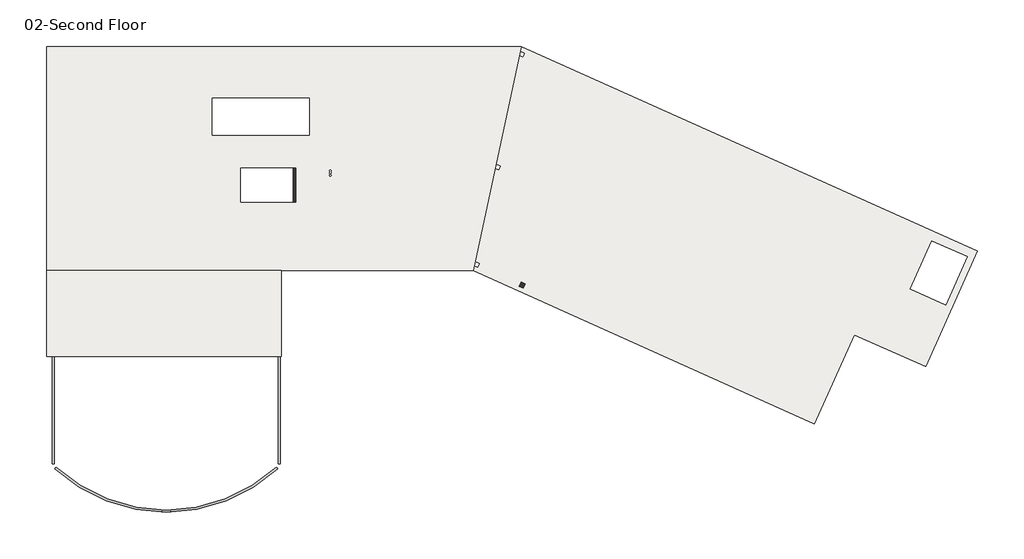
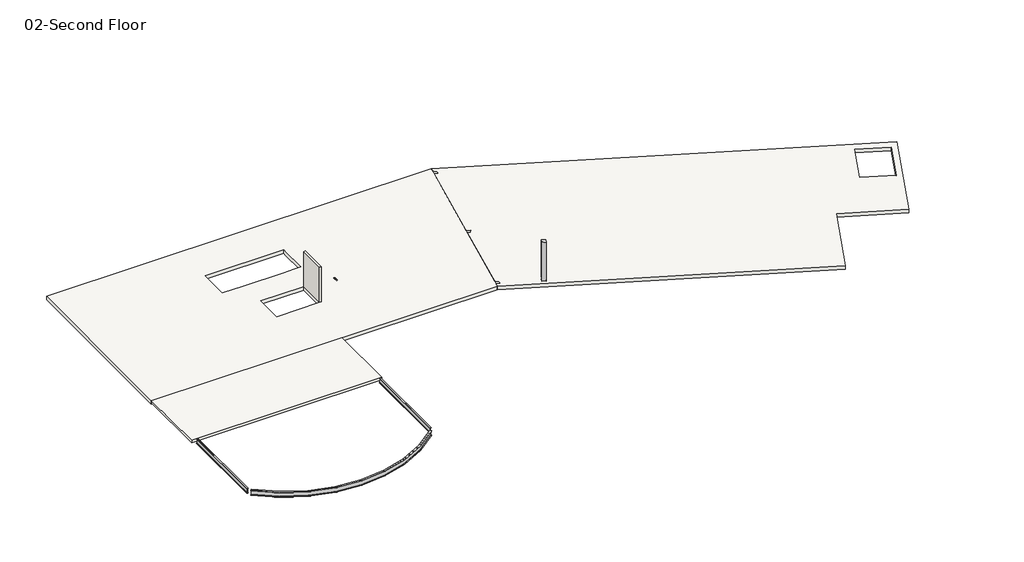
# One storey: 3 beams, 3 slabs, 1 column, 1 wall.
"""IFC4 building model written with IfcOpenShell, lengths in millimetres."""

from ifc_helpers import new_model, si_unit, frame, origin, place, context, project, spatial, polyline, circle_curve, outline, extrude, faceted_brep, transform, mapped, element, save
from ifc_brep_helpers import plane_surface, revolved_surface, advanced_brep
from components import w_shapes_w16x26_e367a1e3, w_shapes_w16x26_bd6dae71, w_shapes_w16x26_8057c508

model = new_model("IFC4")

# Units and contexts
model_context = context("Model", 3, world=origin())
ifc_project = project(units=[si_unit("LENGTHUNIT", "METRE", prefix="MILLI")], contexts=[model_context])

# Site, building, storey
site = spatial("IfcSite", under=ifc_project)
building = spatial("IfcBuilding", under=site)
storey = spatial("IfcBuildingStorey", under=building, Name="02-Second Floor", Elevation=6705.6)

# Beams
placement = place(None, origin())
w_shapes_w16x26_shape = w_shapes_w16x26_e367a1e3(model_context)
element("IfcBeam", 1, ObjectType="W Shapes : W16X26", at=placement, inside=storey, context=model_context, shape_type="MappedRepresentation", body=[
    mapped(w_shapes_w16x26_shape, transform((14998.7, -23723.6, 6506.21), x_axis=(0.0, -1.0, 0.0), y_axis=(1.0, 0.0, 0.0), z_axis=(0.0, 0.0, 1.0))),
])
w_shapes_w16x26_2_shape = w_shapes_w16x26_bd6dae71(model_context)
element("IfcBeam", 2, ObjectType="W Shapes : W16X26", at=placement, inside=storey, context=model_context, shape_type="MappedRepresentation", body=[
    mapped(w_shapes_w16x26_2_shape, transform((0.0, -23723.6, 6506.21), x_axis=(0.0, 1.0, 0.0), y_axis=(-1.0, 0.0, 0.0), z_axis=(0.0, 0.0, 1.0))),
])
w_shapes_w16x26_3_shape = w_shapes_w16x26_8057c508(model_context)
element("IfcBeam", 3, ObjectType="W Shapes : W16X26", at=placement, inside=storey, context=model_context, shape_type="MappedRepresentation", body=[
    mapped(w_shapes_w16x26_3_shape, transform((14998.7, -27444.7, 6506.21), x_axis=(-0.7227923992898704, -0.691065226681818, 0.0), y_axis=(0.691065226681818, -0.7227923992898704, 0.0), z_axis=(0.0, 0.0, 1.0))),
])

# Column
element("IfcColumn", 4, ObjectType="Concrete-Rectangular-Column : 12 x 12", at=placement, inside=storey, context=model_context, shape_type="Brep", body=[
    faceted_brep([(31086.1980425, -15213.8565854, 6705.6), (31364.2351156, -15338.7502439, 6705.6), (31239.3414571, -15616.7873171, 6705.6), (30961.3043839, -15491.8936585, 6705.6), (31086.1980425, -15213.8565854, 10058.4), (31364.2351156, -15338.7502439, 10058.4), (31364.2351156, -15338.7502439, 9753.6), (31086.1980425, -15213.8565854, 9753.6), (31239.3414571, -15616.7873171, 10058.4), (31239.3414571, -15616.7873171, 9753.6), (30961.3043839, -15491.8936585, 10058.4), (30961.3043839, -15491.8936585, 9753.6)], [[[0, 1, 2, 3]], [[4, 5, 6, 1, 0, 7]], [[5, 8, 9, 2, 1, 6]], [[8, 10, 11, 3, 2, 9]], [[10, 4, 7, 0, 3, 11]], [[4, 10, 8, 5]]]),
])

# Slabs
element("IfcSlab", 5, ObjectType="RC Composite Slab 8\"", at=placement, inside=storey, context=model_context, shape_type="SweptSolid", body=[
    extrude(outline(polyline([(15151.1, -20154.9), (-457.2, -20154.9), (-457.2, -14452.6), (15151.1, -14452.6), (15151.1, -20154.9)])), frame((0.0, 0.0, 6502.4), z_axis=(0.0, 0.0, 1.0), x_axis=(1.0, 0.0, 0.0)), (0.0, 0.0, 1.0), 203.2),
])
element("IfcSlab", 6, ObjectType="RC Slab 12\"", at=placement, inside=storey, context=model_context, shape_type="AdvancedBrep", body=[
    advanced_brep(
    [(-457.2, 457.2, 6400.8), (31098.7387393, 457.2, 6400.8), (27903.7815965, -14452.6, 6400.8), (-457.2, -14452.6, 6400.8), (17005.3, -2984.5, 6400.8), (10553.7, -2984.5, 6400.8), (10553.7, -5422.9, 6400.8), (10858.5, -5422.9, 6400.8), (17005.3, -5422.9, 6400.8), (17005.3, -5168.9, 6400.8), (17005.3, -3289.3, 6400.8), (15951.2, -7633.3081651, 6400.8), (12446.0, -7633.3081651, 6400.8), (12446.0, -9893.3, 6400.8), (15951.2, -9893.3, 6400.8), (18347.8020543, -8109.4381113, 6400.8), (18449.4020543, -8109.4381113, 6400.8), (18347.8020543, -7957.0381113, 6400.8), (18449.4020543, -7957.0381113, 6400.8), (18347.8020543, -7804.6381113, 6400.8), (18449.4020543, -7804.6381113, 6400.8), (31098.7387393, 457.2, 6705.6), (-457.2, 457.2, 6705.6), (-457.2, -14452.6, 6705.6), (15151.1, -14452.6, 6705.6), (27903.7815965, -14452.6, 6705.6), (10553.7, -2984.5, 6705.6), (17005.3, -2984.5, 6705.6), (17005.3, -3289.3, 6705.6), (17005.3, -5168.9, 6705.6), (17005.3, -5422.9, 6705.6), (16522.7, -5422.9, 6705.6), (15608.3, -5422.9, 6705.6), (14389.1, -5422.9, 6705.6), (13474.7, -5422.9, 6705.6), (12242.8, -5422.9, 6705.6), (11328.4, -5422.9, 6705.6), (10553.7, -5422.9, 6705.6), (12446.0, -7633.3081651, 6705.6), (15951.2, -7633.3081651, 6705.6), (15951.2, -9893.3, 6705.6), (12446.0, -9893.3, 6705.6), (18449.4020543, -8109.4381113, 6705.6), (18347.8020543, -8109.4381113, 6705.6), (18449.4020543, -7957.0381113, 6705.6), (18347.8020543, -7957.0381113, 6705.6), (18449.4020543, -7804.6381113, 6705.6), (18347.8020543, -7804.6381113, 6705.6), (-457.2, -14452.6, 6502.4)],
    [
        (0, 1),
        (1, 2),
        (2, 3),
        (3, 0),
        (4, 5),
        (5, 6),
        (6, 7),
        (7, 8),
        (8, 9),
        (9, 10),
        (10, 4),
        (11, 12),
        (12, 13),
        (13, 14),
        (14, 11),
        (15, 16, circle_curve(frame((18398.6020543, -8109.4381113, 6400.8), z_axis=(0.0, 0.0, 1.0), x_axis=(1.0, 0.0, 0.0)), 50.8)),
        (16, 15, circle_curve(frame((18398.6020543, -8109.4381113, 6400.8), z_axis=(0.0, 0.0, 1.0), x_axis=(1.0, 0.0, 0.0)), 50.8)),
        (17, 18, circle_curve(frame((18398.6020543, -7957.0381113, 6400.8), z_axis=(0.0, 0.0, 1.0), x_axis=(1.0, 0.0, 0.0)), 50.8)),
        (18, 17, circle_curve(frame((18398.6020543, -7957.0381113, 6400.8), z_axis=(0.0, 0.0, 1.0), x_axis=(1.0, 0.0, 0.0)), 50.8)),
        (19, 20, circle_curve(frame((18398.6020543, -7804.6381113, 6400.8), z_axis=(0.0, 0.0, 1.0), x_axis=(1.0, 0.0, 0.0)), 50.8)),
        (20, 19, circle_curve(frame((18398.6020543, -7804.6381113, 6400.8), z_axis=(0.0, 0.0, 1.0), x_axis=(1.0, 0.0, 0.0)), 50.8)),
        (21, 22),
        (22, 23),
        (23, 24),
        (24, 25),
        (25, 21),
        (26, 27),
        (27, 28),
        (28, 29),
        (29, 30),
        (30, 31),
        (31, 32),
        (32, 33),
        (33, 34),
        (34, 35),
        (35, 36),
        (36, 37),
        (37, 26),
        (38, 39),
        (39, 40),
        (40, 41),
        (41, 38),
        (42, 43, circle_curve(frame((18398.6020543, -8109.4381113, 6705.6), z_axis=(0.0, 0.0, -1.0), x_axis=(1.0, 0.0, 0.0)), 50.8)),
        (43, 42, circle_curve(frame((18398.6020543, -8109.4381113, 6705.6), z_axis=(0.0, 0.0, -1.0), x_axis=(1.0, 0.0, 0.0)), 50.8)),
        (44, 45, circle_curve(frame((18398.6020543, -7957.0381113, 6705.6), z_axis=(0.0, 0.0, -1.0), x_axis=(1.0, 0.0, 0.0)), 50.8)),
        (45, 44, circle_curve(frame((18398.6020543, -7957.0381113, 6705.6), z_axis=(0.0, 0.0, -1.0), x_axis=(1.0, 0.0, 0.0)), 50.8)),
        (46, 47, circle_curve(frame((18398.6020543, -7804.6381113, 6705.6), z_axis=(0.0, 0.0, -1.0), x_axis=(1.0, 0.0, 0.0)), 50.8)),
        (47, 46, circle_curve(frame((18398.6020543, -7804.6381113, 6705.6), z_axis=(0.0, 0.0, -1.0), x_axis=(1.0, 0.0, 0.0)), 50.8)),
        (0, 22),
        (21, 1),
        (25, 2),
        (23, 48),
        (48, 3),
        (4, 27),
        (26, 5),
        (37, 6),
        (30, 8),
        (11, 39),
        (38, 12),
        (41, 13),
        (40, 14),
        (15, 43),
        (42, 16),
        (17, 45),
        (44, 18),
        (19, 47),
        (46, 20),
    ],
    [
        plane_surface(frame((0.0, 457.2, 6400.8), z_axis=(0.0, 0.0, -1.0), x_axis=(1.0, 0.0, 0.0))),
        plane_surface(frame((0.0, 457.2, 6705.6), z_axis=(0.0, 0.0, 1.0), x_axis=(-1.0, 0.0, 0.0))),
        plane_surface(frame((-457.2, 457.2, 6400.8), z_axis=(0.0, 1.0, 0.0), x_axis=(0.0, 0.0, 1.0))),
        plane_surface(frame((31098.7387393, 457.2, 6400.8), z_axis=(0.9778024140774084, -0.2095290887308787, 0.0), x_axis=(0.0, 0.0, 1.0))),
        plane_surface(frame((27903.7815965, -14452.6, 6400.8), z_axis=(0.0, -1.0, 0.0), x_axis=(0.0, 0.0, 1.0))),
        plane_surface(frame((-457.2, -14452.6, 6400.8), z_axis=(-1.0, 0.0, 0.0), x_axis=(0.0, 0.0, 1.0))),
        plane_surface(frame((17005.3, -2984.5, 10363.2), z_axis=(0.0, -1.0, 0.0), x_axis=(0.0, 0.0, -1.0))),
        plane_surface(frame((10553.7, -2984.5, 10363.2), z_axis=(1.0, 0.0, 0.0), x_axis=(0.0, 0.0, -1.0))),
        plane_surface(frame((10553.7, -5422.9, 10363.2), z_axis=(0.0, 1.0, 0.0), x_axis=(0.0, 0.0, -1.0))),
        plane_surface(frame((17005.3, -5422.9, 10363.2), z_axis=(-1.0, 0.0, 0.0), x_axis=(0.0, 0.0, -1.0))),
        plane_surface(frame((15951.2, -7633.3081651, 10363.2), z_axis=(0.0, -1.0, 0.0), x_axis=(0.0, 0.0, -1.0))),
        plane_surface(frame((12446.0, -7633.3081651, 10363.2), z_axis=(1.0, 0.0, 0.0), x_axis=(0.0, 0.0, -1.0))),
        plane_surface(frame((12446.0, -9893.3, 10363.2), z_axis=(0.0, 1.0, 0.0), x_axis=(0.0, 0.0, -1.0))),
        plane_surface(frame((15951.2, -9893.3, 10363.2), z_axis=(-1.0, 0.0, 0.0), x_axis=(0.0, 0.0, -1.0))),
        revolved_surface(polyline([(18449.4020543, -8109.4381113, 6705.6), (18449.4020543, -8109.4381113, 6400.8)]), (18398.6020543, -8109.4381113, 6096.0), (0.0, 0.0, 1.0)),
        revolved_surface(polyline([(18449.4020543, -7957.0381113, 6705.6), (18449.4020543, -7957.0381113, 6400.8)]), (18398.6020543, -7957.0381113, 6096.0), (0.0, 0.0, 1.0)),
        revolved_surface(polyline([(18449.4020543, -7804.6381113, 6705.6), (18449.4020543, -7804.6381113, 6400.8)]), (18398.6020543, -7804.6381113, 6096.0), (0.0, 0.0, 1.0)),
    ],
    [
        (0, [[1, 2, 3, 4], [5, 6, 7, 8, 9, 10, 11], [12, 13, 14, 15], [16, 17], [18, 19], [20, 21]]),
        (1, [[22, 23, 24, 25, 26], [27, 28, 29, 30, 31, 32, 33, 34, 35, 36, 37, 38], [39, 40, 41, 42], [43, 44], [45, 46], [47, 48]]),
        (2, [[-1, 49, -22, 50]]),
        (3, [[-2, -50, -26, 51]]),
        (4, [[-3, -51, -25, -24, 52, 53]]),
        (5, [[-4, -53, -52, -23, -49]]),
        (6, [[54, -27, 55, -5]]),
        (7, [[-55, -38, 56, -6]]),
        (8, [[-56, -37, -36, -35, -34, -33, -32, -31, 57, -8, -7]]),
        (9, [[-54, -11, -10, -9, -57, -30, -29, -28]]),
        (10, [[58, -39, 59, -12]]),
        (11, [[-59, -42, 60, -13]]),
        (12, [[-60, -41, 61, -14]]),
        (13, [[-58, -15, -61, -40]]),
        (14, [[62, -43, 63, -16]]),
        (14, [[-62, -17, -63, -44]]),
        (15, [[64, -45, 65, -18]]),
        (15, [[-64, -19, -65, -46]]),
        (16, [[66, -47, 67, -20]]),
        (16, [[-66, -21, -67, -48]]),
    ],
),
])
element("IfcSlab", 7, ObjectType="RC Slab 12\"", at=placement, inside=storey, context=model_context, shape_type="Brep", body=[
    faceted_brep([(61413.0546278, -13159.9258537, 6400.8), (57962.8673107, -20840.7, 6400.8), (53236.2370668, -18717.5078049, 6400.8), (50577.0429205, -24637.3804878, 6400.8), (27903.7815965, -14452.6, 6400.8), (27969.0988162, -14147.786308, 6400.8), (28217.3432689, -14259.3121951, 6400.8), (28342.2369275, -13981.275122, 6400.8), (28034.4045592, -13843.0124873, 6400.8), (29359.7488162, -7658.086308, 6400.8), (29607.9932689, -7769.6121951, 6400.8), (29732.8869275, -7491.575122, 6400.8), (29425.0545592, -7353.3124873, 6400.8), (30968.1131019, -152.386308, 6400.8), (31216.3575546, -263.9121951, 6400.8), (31341.2512132, 14.124878, 6400.8), (31033.4188449, 152.3875127, 6400.8), (31098.7387393, 457.2, 6400.8), (59309.9346278, -16726.0858537, 6400.8), (60746.211701, -13528.6595122, 6400.8), (58382.896579, -12467.0634146, 6400.8), (56946.6195059, -15664.4897561, 6400.8), (31364.2351156, -15338.7502439, 6400.8), (31086.1980425, -15213.8565854, 6400.8), (30961.3043839, -15491.8936585, 6400.8), (31239.3414571, -15616.7873171, 6400.8), (57962.8673107, -20840.7, 6705.6), (61413.0546278, -13159.9258537, 6705.6), (31098.7387393, 457.2, 6705.6), (31033.4244536, 152.4, 6705.6), (31341.2512132, 14.124878, 6705.6), (31216.3575546, -263.9121951, 6705.6), (30968.1131019, -152.386308, 6705.6), (29425.0601679, -7353.3, 6705.6), (29732.8869275, -7491.575122, 6705.6), (29607.9932689, -7769.6121951, 6705.6), (29359.7488162, -7658.086308, 6705.6), (28034.4101679, -13843.0, 6705.6), (28342.2369275, -13981.275122, 6705.6), (28217.3432689, -14259.3121951, 6705.6), (27969.0988162, -14147.786308, 6705.6), (27903.7815965, -14452.6, 6705.6), (50577.0429205, -24637.3804878, 6705.6), (53236.2370668, -18717.5078049, 6705.6), (60746.211701, -13528.6595122, 6705.6), (59309.9346278, -16726.0858537, 6705.6), (56946.6195059, -15664.4897561, 6705.6), (58382.896579, -12467.0634146, 6705.6), (31086.1980425, -15213.8565854, 6705.6), (31364.2351156, -15338.7502439, 6705.6), (31239.3414571, -15616.7873171, 6705.6), (30961.3043839, -15491.8936585, 6705.6)], [[[0, 1, 2, 3, 4, 5, 6, 7, 8, 9, 10, 11, 12, 13, 14, 15, 16, 17], [18, 19, 20, 21], [22, 23, 24, 25]], [[26, 27, 28, 29, 30, 31, 32, 33, 34, 35, 36, 37, 38, 39, 40, 41, 42, 43], [44, 45, 46, 47], [48, 49, 50, 51]], [[1, 0, 27, 26]], [[2, 1, 26, 43]], [[3, 2, 43, 42]], [[4, 3, 42, 41]], [[4, 41, 40, 5]], [[28, 17, 16, 29]], [[8, 37, 36, 9]], [[32, 13, 12, 33]], [[0, 17, 28, 27]], [[7, 38, 37, 8]], [[38, 7, 6, 39]], [[39, 6, 5, 40]], [[15, 30, 29, 16]], [[30, 15, 14, 31]], [[31, 14, 13, 32]], [[11, 34, 33, 12]], [[34, 11, 10, 35]], [[35, 10, 9, 36]], [[18, 45, 44, 19]], [[19, 44, 47, 20]], [[20, 47, 46, 21]], [[45, 18, 21, 46]], [[22, 49, 48, 23]], [[49, 22, 25, 50]], [[50, 25, 24, 51]], [[51, 24, 23, 48]]]),
])

# Wall
element("IfcWall", 8, ObjectType="6\" Blockwork with render", at=placement, inside=storey, context=model_context, shape_type="SweptSolid", body=[
    extrude(outline(polyline([(16103.6, -7632.7), (16103.6, -9893.3), (15951.2, -9893.3), (15951.2, -7632.7), (16103.6, -7632.7)])), frame((0.0, 0.0, 6705.6), z_axis=(0.0, 0.0, 1.0), x_axis=(1.0, 0.0, 0.0)), (0.0, 0.0, 1.0), 3048.0),
])

save(model, "model.ifc")
